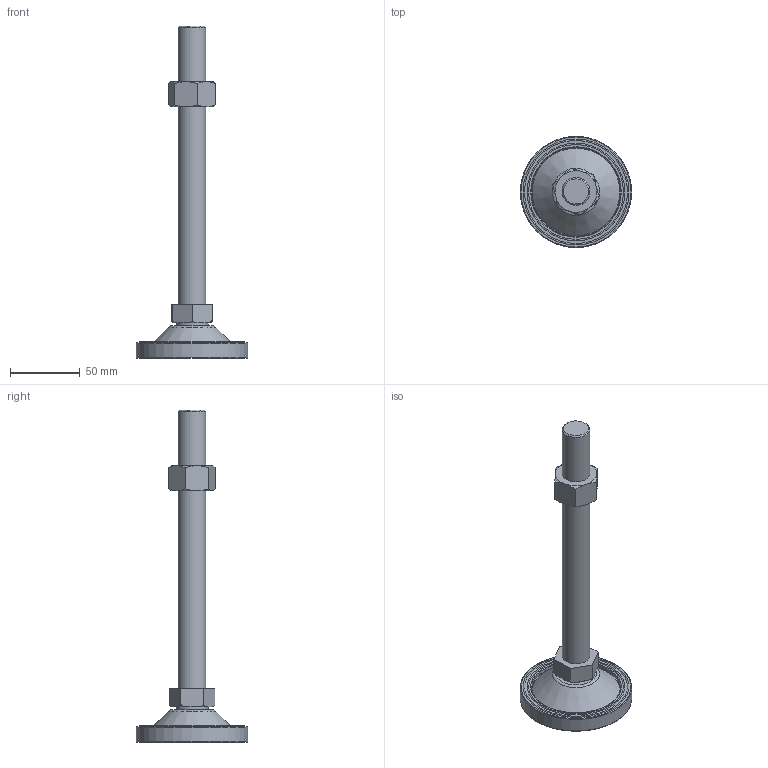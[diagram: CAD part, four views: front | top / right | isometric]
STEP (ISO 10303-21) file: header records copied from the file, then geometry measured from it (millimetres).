
FILE_DESCRIPTION((' '),'2;1');
FILE_NAME('Y:\00. A standard brand\06. 3D Modeling\외부전송용_STEP\LEVELLING FOOT(STEP)\A-PLR SERIES STEP\A-PLR-20-200.stp.stp','2011-11-22T18:43:32',(' '),(' '),' ','ACIS',' ');
FILE_SCHEMA(('CONFIG_CONTROL_DESIGN'));
Length unit declared in the file: millimetre
Products named in the file (1): Y:\00. A standard brand\06. 3D Modeling\외부전송용_STEP\LEVELLING FOOT(STEP)\A-PLR SERIES STEP\A-PLR-20-200.stp.stp
Bounding box: 80 x 80 x 238.31 mm (x, y, z)
Volume: 128591.4 mm3; surface area: 40378.6 mm2
Topology: 3 solids, 4 shells, 115 faces, 255 edges, 159 vertices
Faces by surface type: plane 56, cylinder 20, cone 17, torus 15, bspline 7
Full cylindrical faces by diameter (mm): 8 x1, 12 x2, 19.27 x1, 20 x2, 23 x1, 36 x1, 51 x1, 64 x2, 80 x1
Entity records: 3416 total; most frequent: CARTESIAN_POINT 997, DIRECTION 480, ORIENTED_EDGE 426, EDGE_CURVE 213, AXIS2_PLACEMENT_3D 194, EDGE_LOOP 162, VERTEX_POINT 150, FACE_OUTER_BOUND 115
